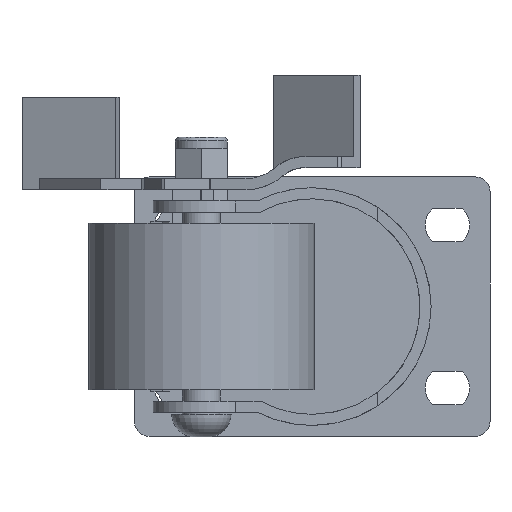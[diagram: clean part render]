
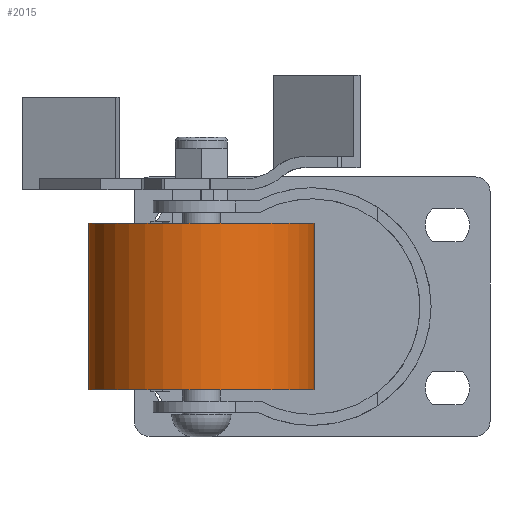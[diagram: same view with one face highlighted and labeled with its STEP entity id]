
A CAD part, front view. The second image highlights one B-rep face of the part: STEP entity #2015.
In plain terms, the highlighted cylindrical face has radius 30.5 mm (diameter 61 mm), a partial arc.
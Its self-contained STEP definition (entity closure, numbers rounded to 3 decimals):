
#39 = EDGE_CURVE ( 'NONE', #2745, #3231, #3020, .T. ) ;
#414 = LINE ( 'NONE', #4240, #1410 ) ;
#444 = EDGE_CURVE ( 'NONE', #3231, #3373, #4901, .T. ) ;
#475 = DIRECTION ( 'NONE',  ( 0., 0., 1. ) ) ;
#497 = CIRCLE ( 'NONE', #1391, 30.5 ) ;
#725 = AXIS2_PLACEMENT_3D ( 'NONE', #4346, #1847, #4740 ) ;
#769 = ORIENTED_EDGE ( 'NONE', *, *, #444, .T. ) ;
#1009 = CYLINDRICAL_SURFACE ( 'NONE', #725, 30.5 ) ;
#1355 = DIRECTION ( 'NONE',  ( 0., 0., -1. ) ) ;
#1391 = AXIS2_PLACEMENT_3D ( 'NONE', #3864, #1355, #4293 ) ;
#1410 = VECTOR ( 'NONE', #475, 1000. ) ;
#1537 = AXIS2_PLACEMENT_3D ( 'NONE', #1544, #4527, #2049 ) ;
#1544 = CARTESIAN_POINT ( 'NONE',  ( 251.615, 123.133, -12.5 ) ) ;
#1600 = VECTOR ( 'NONE', #4184, 1000. ) ;
#1682 = CARTESIAN_POINT ( 'NONE',  ( 221.115, 123.133, -35. ) ) ;
#1847 = DIRECTION ( 'NONE',  ( 0., 0., 1. ) ) ;
#1899 = CARTESIAN_POINT ( 'NONE',  ( 221.115, 123.133, -12.5 ) ) ;
#2015 = ADVANCED_FACE ( 'NONE', ( #3392 ), #1009, .T. ) ;
#2049 = DIRECTION ( 'NONE',  ( 1., 0., 0. ) ) ;
#2267 = CARTESIAN_POINT ( 'NONE',  ( 282.115, 123.133, -12.5 ) ) ;
#2412 = CARTESIAN_POINT ( 'NONE',  ( 221.115, 123.133, -57.5 ) ) ;
#2737 = ORIENTED_EDGE ( 'NONE', *, *, #4725, .T. ) ;
#2745 = VERTEX_POINT ( 'NONE', #2267 ) ;
#2983 = VERTEX_POINT ( 'NONE', #3011 ) ;
#3011 = CARTESIAN_POINT ( 'NONE',  ( 282.115, 123.133, -57.5 ) ) ;
#3020 = CIRCLE ( 'NONE', #1537, 30.5 ) ;
#3231 = VERTEX_POINT ( 'NONE', #1899 ) ;
#3373 = VERTEX_POINT ( 'NONE', #2412 ) ;
#3392 = FACE_OUTER_BOUND ( 'NONE', #3648, .T. ) ;
#3427 = ORIENTED_EDGE ( 'NONE', *, *, #39, .T. ) ;
#3648 = EDGE_LOOP ( 'NONE', ( #5187, #2737, #3427, #769 ) ) ;
#3864 = CARTESIAN_POINT ( 'NONE',  ( 251.615, 123.133, -57.5 ) ) ;
#4007 = EDGE_CURVE ( 'NONE', #2983, #3373, #497, .T. ) ;
#4184 = DIRECTION ( 'NONE',  ( 0., 0., -1. ) ) ;
#4240 = CARTESIAN_POINT ( 'NONE',  ( 282.115, 123.133, -35. ) ) ;
#4293 = DIRECTION ( 'NONE',  ( 1., 0., 0. ) ) ;
#4346 = CARTESIAN_POINT ( 'NONE',  ( 251.615, 123.133, -57.5 ) ) ;
#4527 = DIRECTION ( 'NONE',  ( 0., 0., -1. ) ) ;
#4725 = EDGE_CURVE ( 'NONE', #2983, #2745, #414, .T. ) ;
#4740 = DIRECTION ( 'NONE',  ( 1., 0., 0. ) ) ;
#4901 = LINE ( 'NONE', #1682, #1600 ) ;
#5187 = ORIENTED_EDGE ( 'NONE', *, *, #4007, .F. ) ;
